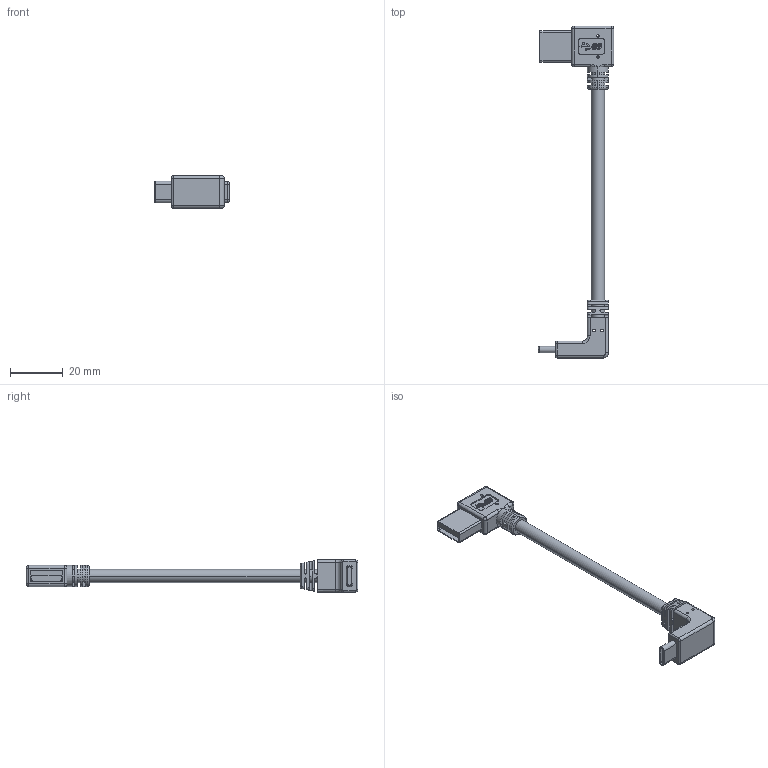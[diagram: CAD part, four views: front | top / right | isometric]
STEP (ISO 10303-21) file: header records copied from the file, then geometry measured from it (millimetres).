
FILE_DESCRIPTION (( 'STEP AP203' ), '1' );
FILE_NAME ('RR-ARCV-XXGRC_202302.STEP', '2023-02-17T05:27:42', ( '' ), ( '' ), 'SwSTEP 2.0', 'SolidWorks 2019', '' );
FILE_SCHEMA (( 'CONFIG_CONTROL_DESIGN' ));
Length unit declared in the file: millimetre
Products named in the file (1): RR-ARCV-XXGRC_202302
Bounding box: 28.65 x 125.9 x 12.25 mm (x, y, z)
Volume: 7081.4 mm3; surface area: 5224.7 mm2
Topology: 1 solids, 1 shells, 319 faces, 857 edges, 542 vertices
Faces by surface type: cylinder 158, plane 115, bspline 21, torus 13, sphere 8, cone 4
Entity records: 11395 total; most frequent: CARTESIAN_POINT 3368, ORIENTED_EDGE 1690, DIRECTION 1672, EDGE_CURVE 845, AXIS2_PLACEMENT_3D 628, VERTEX_POINT 542, VECTOR 416, LINE 416
